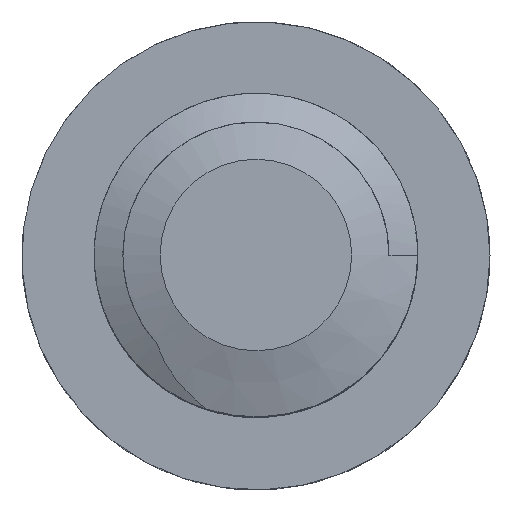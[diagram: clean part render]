
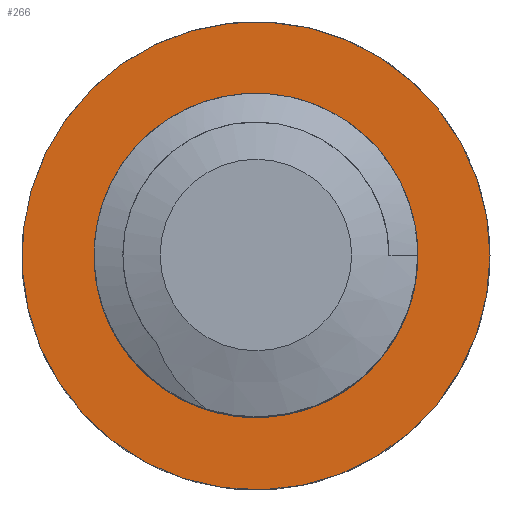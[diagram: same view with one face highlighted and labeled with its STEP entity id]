
A CAD part, top view. The second image highlights one B-rep face of the part: STEP entity #266.
In plain terms, the highlighted planar face has unit normal (0, 0, 1).
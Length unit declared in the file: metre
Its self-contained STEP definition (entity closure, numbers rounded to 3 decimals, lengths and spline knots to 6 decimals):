
#17=B_SPLINE_CURVE_WITH_KNOTS('',3,(#646,#647,#648,#649,#650,#651,#652,
#653,#654,#655),.UNSPECIFIED.,.F.,.F.,(4,1,1,1,1,1,1,4),(0.,
0.0028,0.005601,0.008401,0.011202,
0.014002,0.016803,0.022403),.UNSPECIFIED.);
#18=B_SPLINE_CURVE_WITH_KNOTS('',3,(#659,#660,#661,#662,#663,#664),
 .UNSPECIFIED.,.F.,.F.,(4,1,1,4),(0.,0.004631,0.006947,
0.009263),.UNSPECIFIED.);
#34=CIRCLE('',#298,0.0125);
#35=CIRCLE('',#300,0.022);
#38=CIRCLE('',#304,0.01521);
#62=ORIENTED_EDGE('',*,*,#136,.F.);
#63=ORIENTED_EDGE('',*,*,#127,.F.);
#64=ORIENTED_EDGE('',*,*,#137,.F.);
#65=ORIENTED_EDGE('',*,*,#138,.F.);
#66=ORIENTED_EDGE('',*,*,#139,.F.);
#67=ORIENTED_EDGE('',*,*,#129,.T.);
#127=EDGE_CURVE('',#165,#166,#34,.T.);
#129=EDGE_CURVE('',#167,#167,#35,.T.);
#136=EDGE_CURVE('',#166,#172,#191,.T.);
#137=EDGE_CURVE('',#173,#165,#17,.T.);
#138=EDGE_CURVE('',#174,#173,#38,.T.);
#139=EDGE_CURVE('',#172,#174,#18,.T.);
#165=VERTEX_POINT('',#626);
#166=VERTEX_POINT('',#628);
#167=VERTEX_POINT('',#632);
#172=VERTEX_POINT('',#645);
#173=VERTEX_POINT('',#656);
#174=VERTEX_POINT('',#658);
#191=LINE('',#644,#206);
#206=VECTOR('',#353,1.);
#218=EDGE_LOOP('',(#62,#63,#64,#65,#66));
#219=EDGE_LOOP('',(#67));
#238=FACE_BOUND('',#218,.T.);
#239=FACE_BOUND('',#219,.T.);
#255=PLANE('',#303);
#266=ADVANCED_FACE('',(#238,#239),#255,.T.);
#298=AXIS2_PLACEMENT_3D('',#627,#336,#337);
#300=AXIS2_PLACEMENT_3D('',#631,#341,#342);
#303=AXIS2_PLACEMENT_3D('',#643,#351,#352);
#304=AXIS2_PLACEMENT_3D('',#657,#354,#355);
#336=DIRECTION('',(0.,0.,1.));
#337=DIRECTION('',(1.,0.,0.));
#341=DIRECTION('',(0.,0.,1.));
#342=DIRECTION('',(1.,0.,0.));
#351=DIRECTION('',(0.,0.,1.));
#352=DIRECTION('',(1.,0.,0.));
#353=DIRECTION('',(1.,0.,0.));
#354=DIRECTION('',(0.,0.,1.));
#355=DIRECTION('',(1.,0.,0.));
#626=CARTESIAN_POINT('',(0.287631,-0.056984,-0.0895));
#627=CARTESIAN_POINT('',(0.287,-0.0445,-0.0895));
#628=CARTESIAN_POINT('',(0.2995,-0.0445,-0.0895));
#631=CARTESIAN_POINT('',(0.287,-0.0445,-0.0895));
#632=CARTESIAN_POINT('',(0.309,-0.0445,-0.0895));
#643=CARTESIAN_POINT('',(0.287,-0.0445,-0.0895));
#644=CARTESIAN_POINT('',(0.287,-0.0445,-0.0895));
#645=CARTESIAN_POINT('',(0.301143,-0.0445,-0.0895));
#646=CARTESIAN_POINT('',(0.27179,-0.04463,-0.0895));
#647=CARTESIAN_POINT('',(0.271893,-0.045572,-0.0895));
#648=CARTESIAN_POINT('',(0.272276,-0.047398,-0.0895));
#649=CARTESIAN_POINT('',(0.273396,-0.050018,-0.0895));
#650=CARTESIAN_POINT('',(0.274981,-0.05233,-0.0895));
#651=CARTESIAN_POINT('',(0.277022,-0.054318,-0.0895));
#652=CARTESIAN_POINT('',(0.279383,-0.055845,-0.0895));
#653=CARTESIAN_POINT('',(0.282894,-0.057235,-0.0895));
#654=CARTESIAN_POINT('',(0.285769,-0.057342,-0.0895));
#655=CARTESIAN_POINT('',(0.287631,-0.056984,-0.0895));
#656=CARTESIAN_POINT('',(0.27179,-0.04463,-0.0895));
#657=CARTESIAN_POINT('',(0.287,-0.0445,-0.0895));
#658=CARTESIAN_POINT('',(0.299279,-0.035524,-0.0895));
#659=CARTESIAN_POINT('',(0.301143,-0.0445,-0.0895));
#660=CARTESIAN_POINT('',(0.301311,-0.042943,-0.0895));
#661=CARTESIAN_POINT('',(0.301198,-0.04062,-0.0895));
#662=CARTESIAN_POINT('',(0.300325,-0.037607,-0.0895));
#663=CARTESIAN_POINT('',(0.299666,-0.036204,-0.0895));
#664=CARTESIAN_POINT('',(0.299279,-0.035524,-0.0895));
